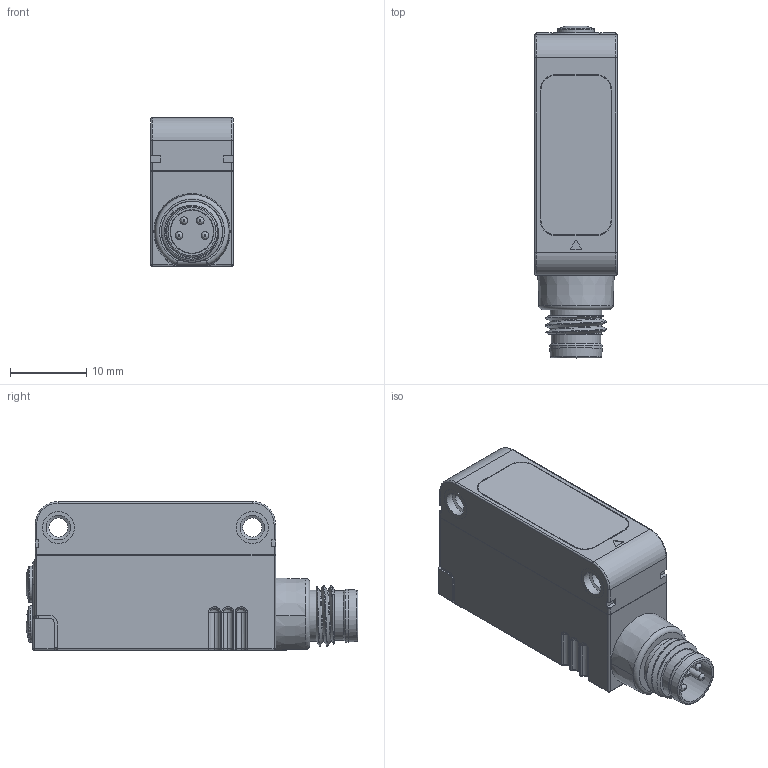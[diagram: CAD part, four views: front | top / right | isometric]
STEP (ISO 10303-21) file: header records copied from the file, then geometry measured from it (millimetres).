
FILE_DESCRIPTION(/* description */ (''),/* implementation_level */ '2;1');
FILE_NAME(/* name */ 'DSD-1157.stp',/* time_stamp */ '2024-06-25T11:36:58+02:00',/* author */ (''),/* organization */ (''),/* preprocessor_version */ 'ST-DEVELOPER v16.701',/* originating_system */ 'SIEMENS PLM Software NX 1946',/* authorisation */ '');
FILE_SCHEMA (('AUTOMOTIVE_DESIGN { 1 0 10303 214 3 1 1 1 }'));
Products named in the file (3): AP061495_00-Bottom Cover per DSD 1157; AP061285_00-Optic Box Group per DSD; AS008632_00-S3N - DSD
Assembly tree (2 placements, depth 2):
  AS008632_00-S3N - DSD
    AP061285_00-Optic Box Group per DSD
    AP061495_00-Bottom Cover per DSD 1157
Bounding box: 10.82 x 43.5 x 19.5 mm (x, y, z)
Volume: 7059.1 mm3; surface area: 6051.2 mm2
Topology: 15 solids, 32 shells, 2475 faces, 6699 edges, 4339 vertices
Faces by surface type: plane 1214, cylinder 585, extrusion 311, bspline 141, torus 112, sphere 62, cone 50
Full cylindrical faces by diameter (mm): 0.5 x2, 0.6 x4, 1 x16, 2.4 x1, 2.5 x2, 3.2 x4, 3.454 x1, 3.8 x1, 4.2 x8, 4.244 x1, 4.5 x2, 4.75 x2, 4.85 x2, 5.65 x2, 5.75 x1, 6.5 x1, 6.75 x6, 6.9 x1
Entity records: 86116 total; most frequent: CARTESIAN_POINT 26238, ORIENTED_EDGE 12914, DIRECTION 11170, EDGE_CURVE 6506, VERTEX_POINT 4280, VECTOR 4206, LINE 3895, AXIS2_PLACEMENT_3D 3482
